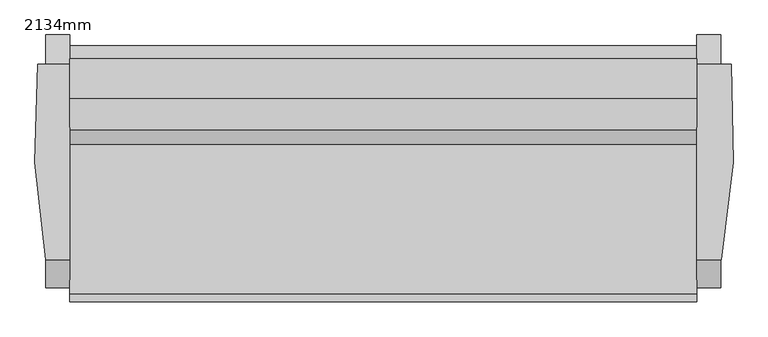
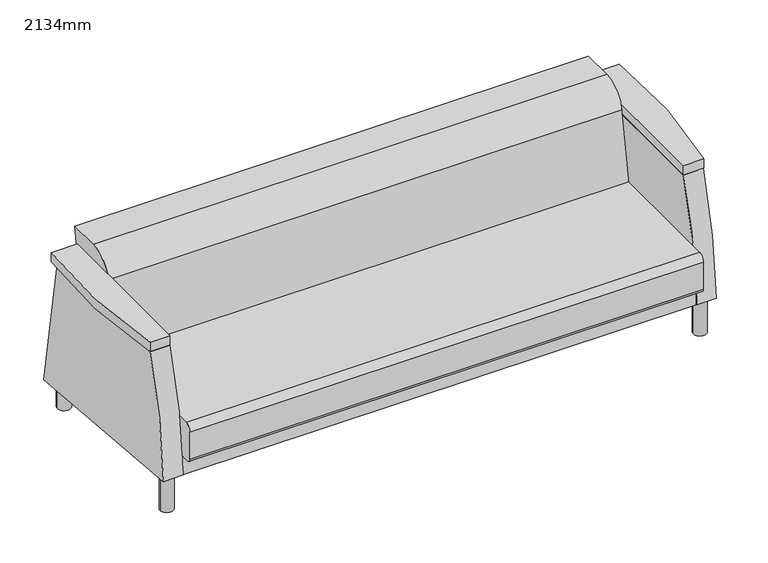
"""IFC4 building model written with IfcOpenShell, lengths in millimetres: furniture geometry, 소파-Pensi : 2134mm."""

from ifc_helpers import new_model, si_unit, point, frame, frame_2d, origin, origin_with_axes, place, context, project, spatial, polyline, circle_curve, trimmed, segment, composite_curve, outline, extrude, source, transform, mapped, element, save
from ifc_brep_helpers import plane_surface, cylinder_surface, advanced_brep


def furniture_2134mm_91f3548c(model_context):
    return source(origin(), model_context, "Body", "SolidModel", [
        advanced_brep(
        [(1345.60625, 701.7619204, 79.3588346), (1345.60625, 608.6917937, 626.0203985), (1345.60625, -9.3943348, 626.0203985), (1345.60625, -97.7900405, 149.3105671), (1269.40625, -9.3943348, 626.0203985), (1269.40625, 608.6917937, 626.0203985), (1269.40625, 701.7619204, 79.3588346), (1269.40625, -83.3930704, 148.0509954), (1269.40625, 668.3047863, 148.0509954), (1269.40625, 668.3047863, 224.2509954), (1269.40625, -93.6952137, 224.2509954), (1269.40625, -93.6952137, 148.9523161), (1269.40625, -97.7900405, 149.3105671), (1269.40625, -93.6952137, 148.0509954), (-712.19375, -83.3930704, 148.0509954), (-712.19375, -93.6952137, 148.0509954), (-712.19375, -93.6952137, 148.9523161), (-712.19375, 668.3047863, 224.2509954), (-712.19375, -93.6952137, 224.2509954), (-712.19375, 668.3047863, 148.0509954), (-712.19375, 701.7619204, 79.3588346), (-712.19375, 608.6917937, 626.0203985), (-712.19375, -9.3943348, 626.0203985), (-712.19375, -97.7900405, 149.3105671), (-788.39375, -9.3943348, 626.0203985), (-788.39375, 608.6917937, 626.0203985), (-788.39375, 701.7619204, 79.3588346), (-788.39375, -97.7900405, 149.3105671)],
        [
            (0, 1),
            (1, 2),
            (2, 3, circle_curve(frame((1345.60625, 1499.9783711, 99.5888442), z_axis=(1.0, 0.0, 0.0), x_axis=(0.0, 1.0, 0.0)), 1598.5418814)),
            (3, 0),
            (4, 5),
            (5, 6),
            (6, 7),
            (7, 8),
            (8, 9),
            (9, 10),
            (10, 4, circle_curve(frame((1269.40625, 1499.9783711, 99.5888442), z_axis=(-1.0, 0.0, 0.0), x_axis=(0.0, 1.0, 0.0)), 1598.5418814)),
            (11, 12),
            (12, 10, circle_curve(frame((1269.40625, 1499.9783711, 99.5888442), z_axis=(-1.0, 0.0, 0.0), x_axis=(0.0, 1.0, 0.0)), 1598.5418814)),
            (10, 11),
            (0, 6),
            (5, 1),
            (4, 2),
            (12, 3),
            (11, 7),
            (11, 13),
            (13, 7),
            (14, 15),
            (15, 16),
            (16, 14),
            (9, 17),
            (17, 18),
            (18, 10),
            (18, 16),
            (15, 13),
            (14, 19),
            (19, 8),
            (19, 17),
            (20, 21),
            (21, 22),
            (22, 18, circle_curve(frame((-712.19375, 1499.9783711, 99.5888442), z_axis=(1.0, 0.0, 0.0), x_axis=(0.0, 1.0, 0.0)), 1598.5418814)),
            (14, 20),
            (18, 23, circle_curve(frame((-712.19375, 1499.9783711, 99.5888442), z_axis=(1.0, 0.0, 0.0), x_axis=(0.0, 1.0, 0.0)), 1598.5418814)),
            (23, 16),
            (24, 25),
            (25, 26),
            (26, 27),
            (27, 24, circle_curve(frame((-788.39375, 1499.9783711, 99.5888442), z_axis=(-1.0, 0.0, 0.0), x_axis=(0.0, 1.0, 0.0)), 1598.5418814)),
            (27, 23),
            (22, 24),
            (26, 20),
            (25, 21),
        ],
        [
            plane_surface(frame((1345.60625, 608.6917937, 626.0203985), z_axis=(1.0000000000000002, 0.0, 0.0), x_axis=(0.0, -0.16783676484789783, 0.985814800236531))),
            plane_surface(frame((1269.40625, 608.6917937, 626.0203985), z_axis=(-1.0000000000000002, 0.0, 0.0), x_axis=(0.0, 0.16783676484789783, -0.985814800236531))),
            plane_surface(frame((1345.60625, 701.7619204, 79.3588346), z_axis=(0.0, 0.985814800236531, 0.16783676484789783), x_axis=(-1.0, 0.0, 0.0))),
            plane_surface(frame((1345.60625, 608.6917937, 626.0203985), z_axis=(0.0, 0.0, 1.0), x_axis=(-1.0, 0.0, 0.0))),
            cylinder_surface(frame((1269.40625, 1499.9783711, 99.5888442), z_axis=(1.0, 0.0, 0.0), x_axis=(0.0, 1.0, 0.0)), 1598.5418814),
            plane_surface(frame((1345.60625, -97.7900405, 149.3105671), z_axis=(0.0, -0.08715574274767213, -0.9961946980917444), x_axis=(-1.0, 0.0, 0.0))),
            plane_surface(frame((1269.40625, -93.6952137, 224.2509954), z_axis=(1.0, 0.0, 0.0), x_axis=(0.0, -1.0, 0.0))),
            plane_surface(frame((-712.19375, -93.6952137, 224.2509954), z_axis=(-1.0, 0.0, 0.0), x_axis=(0.0, 1.0, 0.0))),
            plane_surface(frame((1269.40625, 668.3047863, 224.2509954), z_axis=(0.0, 0.0, 1.0), x_axis=(-1.0, 0.0, 0.0))),
            plane_surface(frame((1269.40625, -93.6952137, 224.2509954), z_axis=(0.0, -1.0, 0.0), x_axis=(-1.0, 0.0, 0.0))),
            plane_surface(frame((1269.40625, -93.6952137, 148.0509954), z_axis=(0.0, 0.0, -1.0), x_axis=(-1.0, 0.0, 0.0))),
            plane_surface(frame((1269.40625, 668.3047863, 148.0509954), z_axis=(0.0, 1.0, 0.0), x_axis=(-1.0, 0.0, 0.0))),
            plane_surface(frame((-712.19375, 3098.5202525, 99.5888442), z_axis=(1.0, 0.0, 0.0), x_axis=(0.0, 0.0, 1.0))),
            plane_surface(frame((-788.39375, 3098.5202525, 99.5888442), z_axis=(-1.0, 0.0, 0.0), x_axis=(0.0, 0.0, -1.0))),
            cylinder_surface(frame((-788.39375, 1499.9783711, 99.5888442), z_axis=(1.0, 0.0, 0.0), x_axis=(0.0, 1.0, 0.0)), 1598.5418814),
            plane_surface(frame((-712.19375, -97.7900405, 149.3105671), z_axis=(0.0, -0.08715574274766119, -0.9961946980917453), x_axis=(-1.0, 0.0, 0.0))),
            plane_surface(frame((-712.19375, 701.7619204, 79.3588346), z_axis=(0.0, 0.9858148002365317, 0.16783676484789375), x_axis=(-1.0, 0.0, 0.0))),
            plane_surface(frame((-712.19375, 608.6917937, 626.0203985), z_axis=(0.0, 0.0, 1.0), x_axis=(-1.0, 0.0, 0.0))),
        ],
        [
            (0, [[1, 2, 3, 4]]),
            (1, [[5, 6, 7, 8, 9, 10, 11]]),
            (1, [[12, 13, 14]]),
            (2, [[-1, 15, -6, 16]]),
            (3, [[-2, -16, -5, 17]]),
            (4, [[-3, -17, -11, -13, 18]]),
            (5, [[-4, -18, -12, 19, -7, -15]]),
            (6, [[20, 21, -19]]),
            (7, [[22, 23, 24]]),
            (8, [[25, 26, 27, -10]]),
            (9, [[-27, 28, -23, 29, -20, -14]]),
            (10, [[-29, -22, 30, 31, -8, -21]]),
            (11, [[-25, -9, -31, 32]]),
            (12, [[33, 34, 35, -26, -32, -30, 36]]),
            (12, [[37, 38, -28]]),
            (13, [[39, 40, 41, 42]]),
            (14, [[-42, 43, -37, -35, 44]]),
            (15, [[-41, 45, -36, -24, -38, -43]]),
            (16, [[-33, -45, -40, 46]]),
            (17, [[-34, -46, -39, -44]]),
        ],
    ),
        extrude(outline(composite_curve([segment(trimmed(circle_curve(frame_2d((-750.29375, -53.0901639)), 25.4), [point((-775.69375, -53.0901639))], [point((-724.89375, -53.0901639))], False, "CARTESIAN"), True, "CONTINUOUS"), segment(trimmed(circle_curve(frame_2d((-750.29375, -53.0901639)), 25.4), [point((-724.89375, -53.0901639))], [point((-775.69375, -53.0901639))], False, "CARTESIAN"), True, "CONTINUOUS")], self_intersect=False)), origin_with_axes(), (0.0, 0.0, 1.0), 148.43125),
        extrude(outline(composite_curve([segment(trimmed(circle_curve(frame_2d((-750.29375, 632.7098361)), 25.4), [point((-775.69375, 632.7098361))], [point((-724.89375, 632.7098361))], False, "CARTESIAN"), True, "CONTINUOUS"), segment(trimmed(circle_curve(frame_2d((-750.29375, 632.7098361)), 25.4), [point((-724.89375, 632.7098361))], [point((-775.69375, 632.7098361))], False, "CARTESIAN"), True, "CONTINUOUS")], self_intersect=False)), origin_with_axes(), (0.0, 0.0, 1.0), 148.43125),
        extrude(outline(composite_curve([segment(trimmed(circle_curve(frame_2d((1307.50625, 632.7098361)), 25.4), [point((1282.10625, 632.7098361))], [point((1332.90625, 632.7098361))], False, "CARTESIAN"), True, "CONTINUOUS"), segment(trimmed(circle_curve(frame_2d((1307.50625, 632.7098361)), 25.4), [point((1332.90625, 632.7098361))], [point((1282.10625, 632.7098361))], False, "CARTESIAN"), True, "CONTINUOUS")], self_intersect=False)), origin_with_axes(), (0.0, 0.0, 1.0), 148.43125),
        extrude(outline(composite_curve([segment(trimmed(circle_curve(frame_2d((1307.50625, -53.0901639)), 25.4), [point((1282.10625, -53.0901639))], [point((1332.90625, -53.0901639))], False, "CARTESIAN"), True, "CONTINUOUS"), segment(trimmed(circle_curve(frame_2d((1307.50625, -53.0901639)), 25.4), [point((1332.90625, -53.0901639))], [point((1282.10625, -53.0901639))], False, "CARTESIAN"), True, "CONTINUOUS")], self_intersect=False)), origin_with_axes(), (0.0, 0.0, 1.0), 148.43125),
        extrude(outline(composite_curve([segment(trimmed(circle_curve(frame_2d((-116.5901639, 351.2509954)), 25.4), [point((-141.9901639, 351.2509954))], [point((-116.5901639, 376.6509954))], False, "CARTESIAN"), True, "CONTINUOUS"), segment(polyline([(-116.5901639, 376.6509954), (355.3895541, 376.6509954), (402.1988177, 642.1195211)]), True, "CONTINUOUS"), segment(trimmed(circle_curve(frame_2d((502.2552854, 624.4768662)), 101.6), [point((402.1988177, 642.1195211))], [point((502.2552854, 726.0768662))], False, "CARTESIAN"), True, "CONTINUOUS"), segment(polyline([(502.2552854, 726.0768662), (626.3344485, 726.0768662), (609.5377828, 620.1719187), (667.6541767, 224.2509954), (-126.1151639, 224.2509954)]), True, "CONTINUOUS"), segment(trimmed(circle_curve(frame_2d((-126.1151639, 240.1259954)), 15.875), [point((-126.1151639, 224.2509954))], [point((-141.9901639, 240.1259954))], False, "CARTESIAN"), True, "CONTINUOUS"), segment(polyline([(-141.9901639, 240.1259954), (-141.9901639, 351.2509954)]), True, "CONTINUOUS")], self_intersect=False)), frame((-712.19375, 0.0, 0.0), z_axis=(1.0, 0.0, 0.0), x_axis=(0.0, 1.0, 0.0)), (0.0, 0.0, 1.0), 1981.6),
        extrude(outline(composite_curve([segment(polyline([(-712.19375, -9.3943348), (-788.39375, -9.3943348)]), True, "CONTINUOUS"), segment(trimmed(circle_curve(frame_2d((1379.7527561, 389.2697363)), 2204.4936638), [point((-788.39375, -9.3943348))], [point((-813.79375, 608.6917935))], False, "CARTESIAN"), True, "CONTINUOUS"), segment(polyline([(-813.79375, 608.6917935), (-712.19375, 608.6917935), (-712.19375, -9.3943348)]), True, "CONTINUOUS")], self_intersect=False)), frame((0.0, 0.0, 626.0203985), z_axis=(0.0, 0.0, 1.0), x_axis=(1.0, 0.0, 0.0)), (0.0, 0.0, 1.0), 38.1),
        extrude(outline(composite_curve([segment(polyline([(1269.40625, -9.3943348), (1269.40625, 608.9395268), (1378.0864453, 608.9395268)]), True, "CONTINUOUS"), segment(trimmed(circle_curve(frame_2d((-821.5771494, 407.0270204)), 2208.9111775), [point((1378.0864453, 608.9395268))], [point((1347.7273117, -9.3943348))], False, "CARTESIAN"), True, "CONTINUOUS"), segment(polyline([(1347.7273117, -9.3943348), (1269.40625, -9.3943348)]), True, "CONTINUOUS")], self_intersect=False)), frame((0.0, 0.0, 626.0203985), z_axis=(0.0, 0.0, 1.0), x_axis=(1.0, 0.0, 0.0)), (0.0, 0.0, 1.0), 38.1),
    ])


if __name__ == "__main__":
    model = new_model("IFC4")
    model_context = context("Model", 3, world=origin())
    ifc_project = project(units=[si_unit("LENGTHUNIT", "METRE", prefix="MILLI")], contexts=[model_context])
    site = spatial("IfcSite", under=ifc_project)
    building = spatial("IfcBuilding", under=site)
    placement = place(None, origin())
    furniture_2134mm_shape = furniture_2134mm_91f3548c(model_context)
    element("IfcFurniture", 1, ObjectType="소파-Pensi : 2134mm", at=placement, inside=building, context=model_context, shape_type="MappedRepresentation", body=[
        mapped(furniture_2134mm_shape, transform((0.0, 0.0, 0.0), x_axis=(1.0, 0.0, 0.0), y_axis=(0.0, 1.0, 0.0), z_axis=(0.0, 0.0, 1.0))),
    ])
    save(model, "model.ifc")
